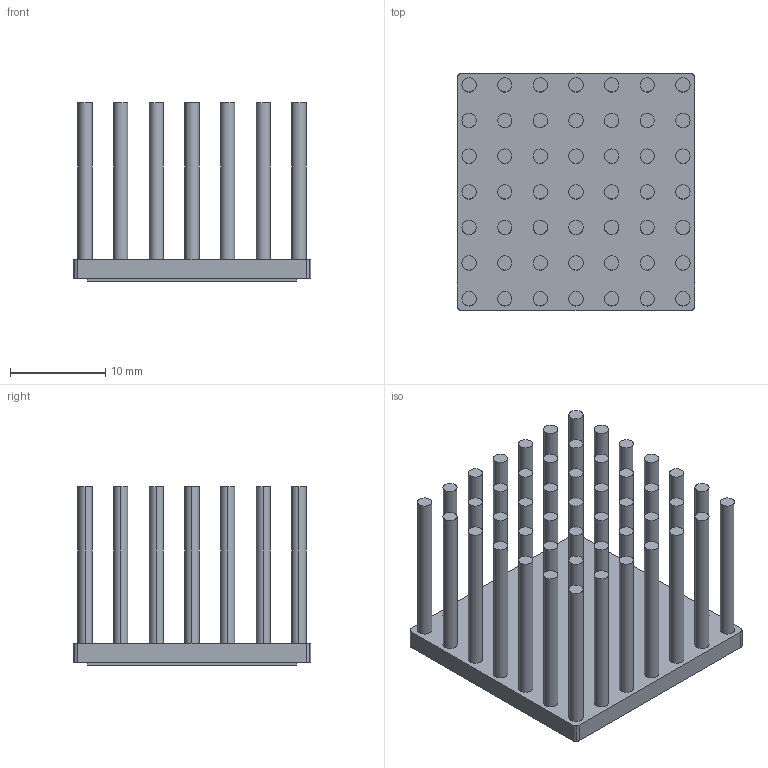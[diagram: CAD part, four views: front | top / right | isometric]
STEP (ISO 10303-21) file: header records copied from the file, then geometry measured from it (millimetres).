
FILE_DESCRIPTION(('STEP AP242'),'1');
FILE_NAME('MHS.PC100.2.stp','2023-04-28T12:36:09',(' '),(' '),'Spatial InterOp 3D',' ',' ');
FILE_SCHEMA(('AP242_MANAGED_MODEL_BASED_3D_ENGINEERING_MIM_LF {1 0 10303 442 1 1 4}'));
Length unit declared in the file: millimetre
Products named in the file (3): MHS.PC100.2; Heatsink; Thermal tape
Assembly tree (2 placements, depth 2):
  MHS.PC100.2
    Heatsink
    Thermal tape
Bounding box: 25 x 25 x 18.8 mm (x, y, z)
Volume: 2823.5 mm3; surface area: 6252.2 mm2
Topology: 2 solids, 2 shells, 167 faces, 342 edges, 228 vertices
Faces by surface type: cylinder 106, plane 61
Entity records: 5925 total; most frequent: DIRECTION 894, CARTESIAN_POINT 740, ORIENTED_EDGE 684, AXIS2_PLACEMENT_3D 382, EDGE_CURVE 342, VERTEX_POINT 228, EDGE_LOOP 216, CIRCLE 212
